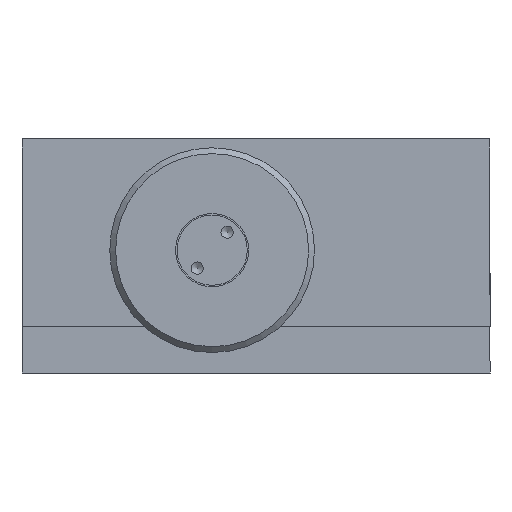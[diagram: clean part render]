
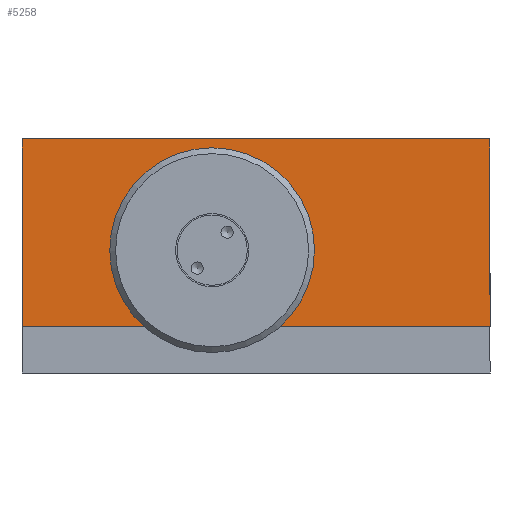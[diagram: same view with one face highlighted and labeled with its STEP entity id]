
A CAD part, front view. The second image highlights one B-rep face of the part: STEP entity #5258.
In plain terms, the highlighted planar face has unit normal (0, -1, 0).
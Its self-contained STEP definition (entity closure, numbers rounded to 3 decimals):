
#213=PLANE('',#5824);
#514=FACE_OUTER_BOUND('',#817,.T.);
#817=EDGE_LOOP('',(#3840,#3841,#3842,#3843));
#1173=LINE('',#8463,#1481);
#1175=LINE('',#8467,#1483);
#1176=LINE('',#8469,#1484);
#1177=LINE('',#8470,#1485);
#1481=VECTOR('',#6872,10.);
#1483=VECTOR('',#6876,10.);
#1484=VECTOR('',#6877,10.);
#1485=VECTOR('',#6878,10.);
#2298=VERTEX_POINT('',#8460);
#2299=VERTEX_POINT('',#8462);
#2300=VERTEX_POINT('',#8466);
#2301=VERTEX_POINT('',#8468);
#2895=EDGE_CURVE('',#2299,#2298,#1173,.T.);
#2897=EDGE_CURVE('',#2298,#2300,#1175,.T.);
#2898=EDGE_CURVE('',#2301,#2300,#1176,.T.);
#2899=EDGE_CURVE('',#2299,#2301,#1177,.T.);
#3840=ORIENTED_EDGE('',*,*,#2897,.T.);
#3841=ORIENTED_EDGE('',*,*,#2898,.F.);
#3842=ORIENTED_EDGE('',*,*,#2899,.F.);
#3843=ORIENTED_EDGE('',*,*,#2895,.T.);
#5258=ADVANCED_FACE('',(#514),#213,.T.);
#5824=AXIS2_PLACEMENT_3D('',#8465,#6874,#6875);
#6872=DIRECTION('',(1.,0.,0.));
#6874=DIRECTION('center_axis',(0.,-1.,0.));
#6875=DIRECTION('ref_axis',(-1.,0.,0.));
#6876=DIRECTION('',(0.,0.,1.));
#6877=DIRECTION('',(1.,0.,0.));
#6878=DIRECTION('',(0.,0.,1.));
#8460=CARTESIAN_POINT('',(51.021,-18.754,8.003));
#8462=CARTESIAN_POINT('',(-28.979,-18.754,8.003));
#8463=CARTESIAN_POINT('',(-28.979,-18.754,8.003));
#8465=CARTESIAN_POINT('Origin',(-28.979,-18.754,8.003));
#8466=CARTESIAN_POINT('',(51.021,-18.754,40.003));
#8467=CARTESIAN_POINT('',(51.021,-18.754,8.003));
#8468=CARTESIAN_POINT('',(-28.979,-18.754,40.003));
#8469=CARTESIAN_POINT('',(-28.979,-18.754,40.003));
#8470=CARTESIAN_POINT('',(-28.979,-18.754,8.003));
